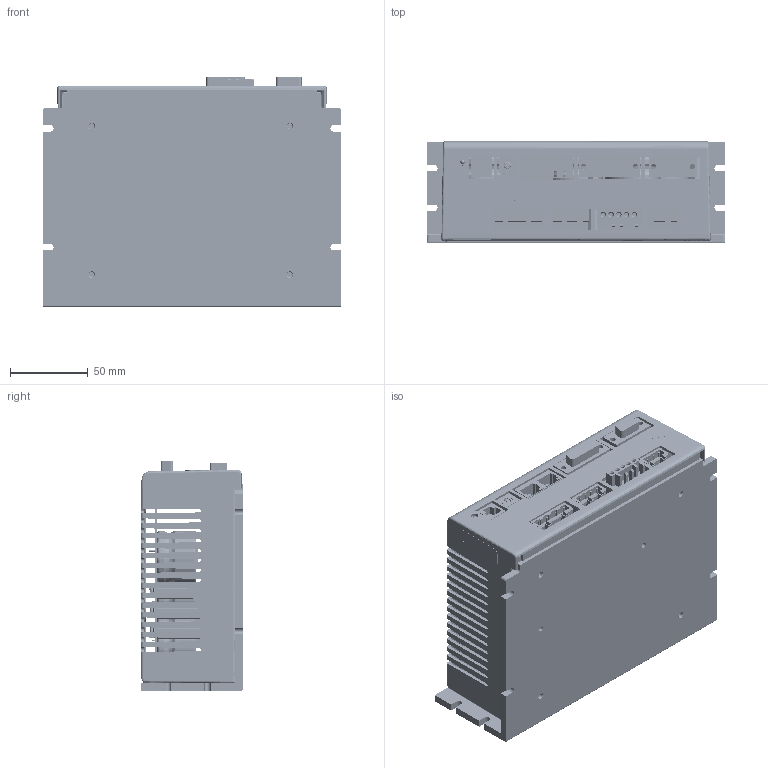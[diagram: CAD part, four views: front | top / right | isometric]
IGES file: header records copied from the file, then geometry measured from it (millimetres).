
Start section: SolidWorks IGES file using analytic representation for surfaces
Global section: file name: K:\ALL Users\Chris Roy\Projects\CMS\Customer Files\AMP\Xenus XTL\XTL.IGS; native system: SolidWorks 2006 by SolidWorks Corporation; preprocessor: SolidWorks 2006 by SolidWorks Corporation; author: croy; date: 080125.141944; units: inch
Bounding box: 191.67 x 64.77 x 147.02 mm (x, y, z)
Surface area: 384491.3 mm2 (no closed solid volume)
Topology: 0 solids, 0 shells, 9183 faces, 183257 edges, 230755 vertices
Faces by surface type: bspline 7371, revolution 1812
